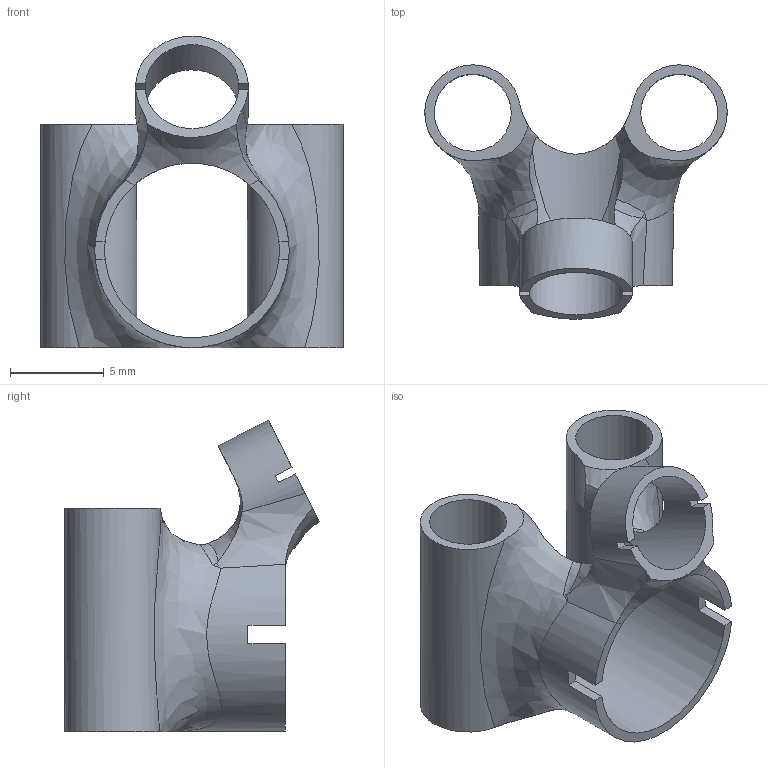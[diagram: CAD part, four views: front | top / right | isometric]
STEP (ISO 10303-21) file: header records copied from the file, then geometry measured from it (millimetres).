
FILE_DESCRIPTION(/* description */ ('STEP AP242 Edition 2','CAx-IF Rec.Pracs.---Representation and Presentation of Product Manufacturing Information (PMI)---4.0---2014-10-13','CAx-IF Rec.Pracs.---3D Tessellated Geometry---0.4---2014-09-14','2;1','CAx-IF Rec.Pracs.---User Defined Attributes---1.5---2016-08-15'),/* implementation_level */ '2;1');
FILE_NAME(/* name */ '692e9e2dc385d6baaaa753ce',/* time_stamp */ '2025-12-02T08:07:10Z',/* author */ (''),/* organization */ (''),/* preprocessor_version */ 'ST-DEVELOPER v20',/* originating_system */ 'ONSHAPE BY PTC INC, 1.207',/* authorisation */ ' ');
FILE_SCHEMA (('AP242_MANAGED_MODEL_BASED_3D_ENGINEERING_MIM_LF { 1 0 10303 442 3 1 4 }'));
Length unit declared in the file: metre
Products named in the file (1): Part 1
Bounding box: 16.1 x 13.54 x 16.59 mm (x, y, z)
Volume: 378.1 mm3; surface area: 1249 mm2
Topology: 1 solids, 1 shells, 45 faces, 142 edges, 93 vertices
Faces by surface type: plane 22, cylinder 12, bspline 11
Full cylindrical faces by diameter (mm): 4.1 x2, 5 x1, 9.3 x1
Entity records: 1870 total; most frequent: CARTESIAN_POINT 747, ORIENTED_EDGE 266, DIRECTION 181, EDGE_CURVE 133, VERTEX_POINT 90, AXIS2_PLACEMENT_3D 72, B_SPLINE_CURVE_WITH_KNOTS 59, EDGE_LOOP 53
